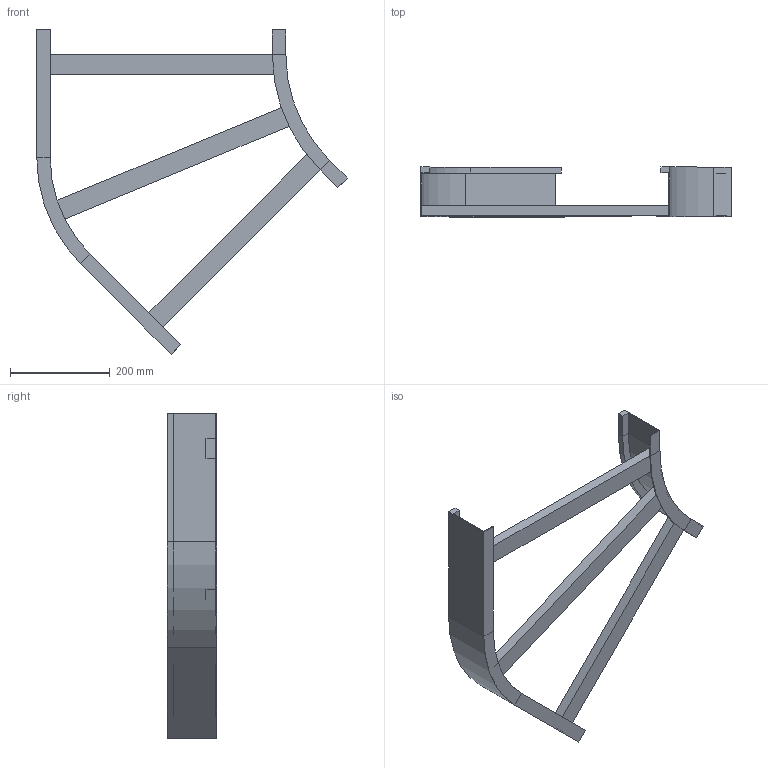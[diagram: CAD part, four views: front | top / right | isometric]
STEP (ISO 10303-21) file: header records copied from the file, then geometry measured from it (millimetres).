
FILE_DESCRIPTION (( 'STEP AP214' ), '1' );
FILE_NAME ('B2_11B3D500.step', '2025-02-21T15:13:02', ( '' ), ( '' ), 'SwSTEP 2.0', 'SolidWorks 2023', '' );
FILE_SCHEMA (( 'AUTOMOTIVE_DESIGN' ));
Length unit declared in the file: millimetre
Products named in the file (5): TRAVERSINO_500; B2_LONGH.ESTERNO 45°_H100_R300+500; B2_11B3D500; TRAVERSINO_L536; B2_LONGH.INTERNO 45°_H100_R300
Assembly tree (5 placements, depth 2):
  B2_11B3D500
    B2_LONGH.INTERNO 45°_H100_R300
    B2_LONGH.ESTERNO 45°_H100_R300+500
    TRAVERSINO_500  x2
    TRAVERSINO_L536
Bounding box: 623.22 x 100 x 651.04 mm (x, y, z)
Volume: 1717450 mm3; surface area: 501955.4 mm2
Topology: 5 solids, 5 shells, 70 faces, 148 edges, 88 vertices
Faces by surface type: plane 62, cylinder 8
Entity records: 1822 total; most frequent: DIRECTION 296, CARTESIAN_POINT 288, ORIENTED_EDGE 272, EDGE_CURVE 136, LINE 120, VECTOR 120, AXIS2_PLACEMENT_3D 88, VERTEX_POINT 80
